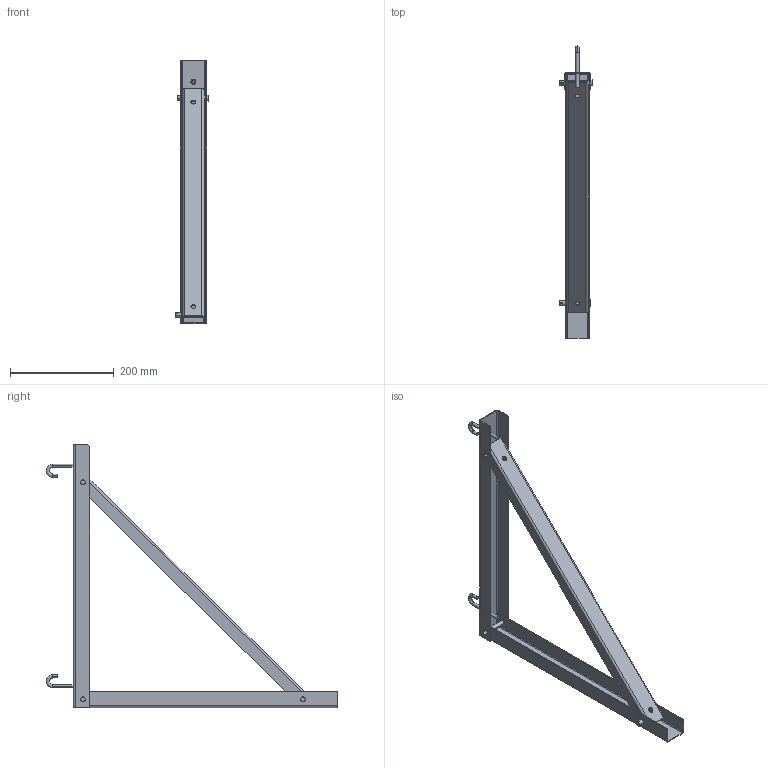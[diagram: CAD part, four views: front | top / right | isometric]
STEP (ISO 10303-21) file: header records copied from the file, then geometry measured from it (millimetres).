
FILE_DESCRIPTION (( 'STEP AP203' ), '1' );
FILE_NAME ('lmtsb18b.STEP', '2008-02-22T14:26:34', ( '' ), ( '' ), 'SwSTEP 2.0', 'SolidWorks 2007', '' );
FILE_SCHEMA (( 'CONFIG_CONTROL_DESIGN' ));
Length unit declared in the file: inch
Products named in the file (6): JHook; lmtsb18b; Back_18in; Top_18in; Support_18in; Pin
Assembly tree (8 placements, depth 2):
  lmtsb18b
    JHook  x2
    Back_18in
    Pin  x3
    Top_18in
    Support_18in
Bounding box: 62.48 x 563.32 x 508 mm (x, y, z)
Volume: 309838.4 mm3; surface area: 336721.9 mm2
Topology: 8 solids, 8 shells, 127 faces, 324 edges, 216 vertices
Faces by surface type: cylinder 76, plane 47, torus 4
Entity records: 4098 total; most frequent: CARTESIAN_POINT 646, DIRECTION 612, ORIENTED_EDGE 540, EDGE_CURVE 270, AXIS2_PLACEMENT_3D 234, VERTEX_POINT 180, VECTOR 144, LINE 144
